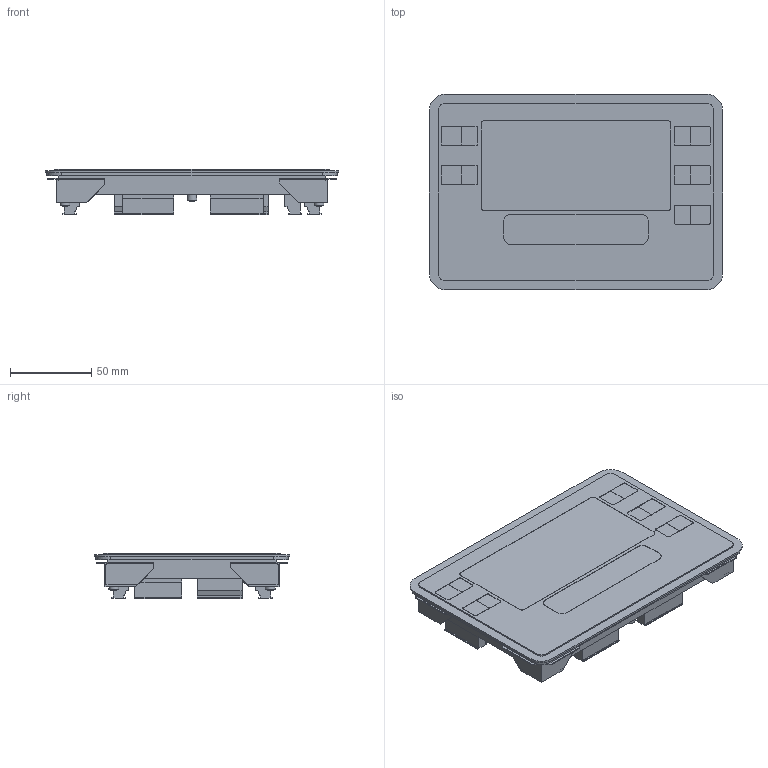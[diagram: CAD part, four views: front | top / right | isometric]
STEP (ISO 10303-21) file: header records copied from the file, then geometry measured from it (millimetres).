
FILE_DESCRIPTION(/* description */ ('STEP AP203'),/* implementation_level */ '2;1');
FILE_NAME(/* name */ '3102CS',/* time_stamp */ '2023-10-23T13:19:10+02:00',/* author */ ('License CC BY-ND 4.0'),/* organization */ ('CADENAS'),/* preprocessor_version */ 'ST-DEVELOPER v19.3',/* originating_system */ 'PARTsolutions',/* authorisation */ ' ');
FILE_SCHEMA (('CONFIG_CONTROL_DESIGN'));
Length unit declared in the file: millimetre
Products named in the file (3): 3102CS; 31XXCS_CLIP; 3102CS_BODY
Assembly tree (5 placements, depth 2):
  3102CS
    31XXCS_CLIP  x4
    3102CS_BODY
Bounding box: 180 x 120 x 27.7 mm (x, y, z)
Volume: 294595.7 mm3; surface area: 71511.5 mm2
Topology: 5 solids, 5 shells, 507 faces, 1366 edges, 906 vertices
Faces by surface type: plane 399, cylinder 90, cone 12, sphere 6
Full cylindrical faces by diameter (mm): 2 x2, 2.459 x4, 3 x4, 3.5 x4, 4 x4, 4.8 x4, 6 x6
Entity records: 13657 total; most frequent: CARTESIAN_POINT 2025, ORIENTED_EDGE 1916, DIRECTION 1903, EDGE_CURVE 958, LINE 749, VECTOR 749, VERTEX_POINT 655, AXIS2_PLACEMENT_3D 577
